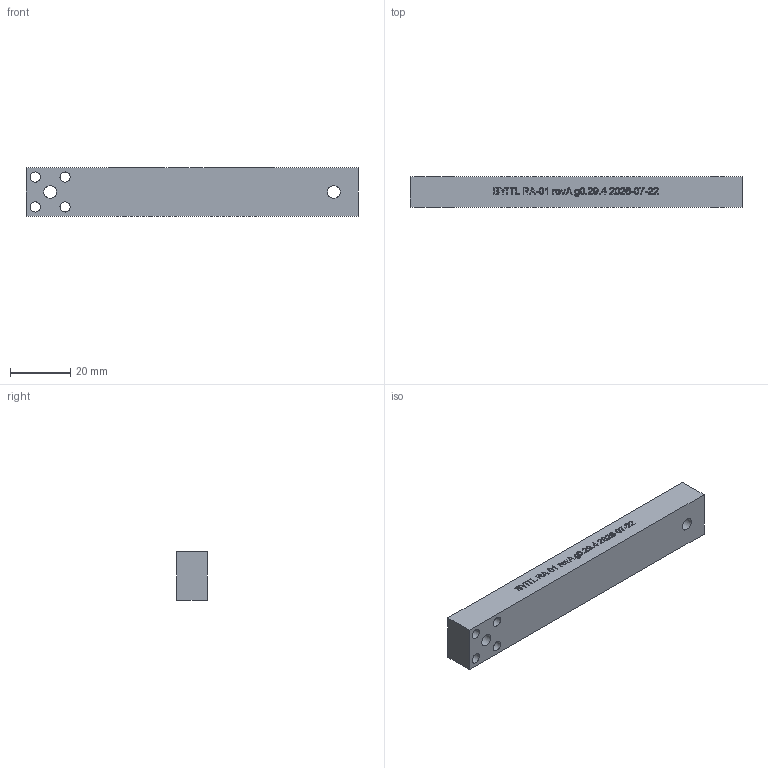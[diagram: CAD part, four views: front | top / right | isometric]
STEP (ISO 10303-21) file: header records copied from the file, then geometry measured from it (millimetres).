
FILE_DESCRIPTION(('Open CASCADE Model'),'2;1');
FILE_NAME('Open CASCADE Shape Model','2026-07-23T16:04:20',('Author'),( 'Open CASCADE'),'Open CASCADE STEP processor 7.9','build123d', 'Unknown');
FILE_SCHEMA(('AUTOMOTIVE_DESIGN { 1 0 10303 214 1 1 1 1 }'));
Length unit declared in the file: millimetre
Products named in the file (2): =>[0:1:1:2]; COMPOUND
Assembly tree (1 placements, depth 2):
  =>[0:1:1:2]
    COMPOUND
Bounding box: 110 x 10 x 16 mm (x, y, z)
Volume: 16945.5 mm3; surface area: 6712 mm2
Topology: 1 solids, 1 shells, 545 faces, 1494 edges, 996 vertices
Faces by surface type: extrusion 333, plane 206, cylinder 6
Full cylindrical faces by diameter (mm): 3.4 x4, 4.2 x2
Entity records: 42147 total; most frequent: CARTESIAN_POINT 15764, DIRECTION 3268, ORIENTED_EDGE 2988, PCURVE 2988, DEFINITIONAL_REPRESENTATION 2988, VECTOR 2816, LINE 2483, B_SPLINE_CURVE_WITH_KNOTS 2308
